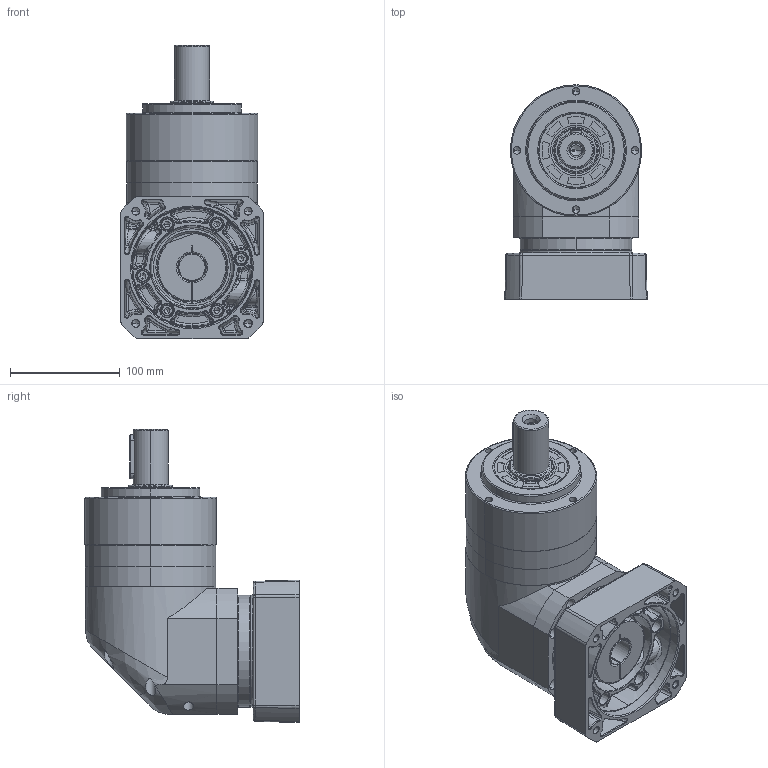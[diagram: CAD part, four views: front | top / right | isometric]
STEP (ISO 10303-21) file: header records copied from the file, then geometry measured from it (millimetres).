
FILE_DESCRIPTION (( 'STEP AP214' ), '1' );
FILE_NAME ('EVL120-L1-S2-P1 24-110-145-M8-64.STEP', '2025-02-14T08:11:28', ( '微软用户' ), ( '微软中国' ), 'SwSTEP 2.0', 'SolidWorks 2021', '' );
FILE_SCHEMA (( 'AUTOMOTIVE_DESIGN' ));
Length unit declared in the file: millimetre
Products named in the file (13): 一级直角箱体EVT110D-加螺栓; 输入轴PAR115D-22; 踡隅蹟隊M16x12; 输入端壳体PAR115D; 怀堤傷褲极VRT110D; 输出内齿圈壳体VRL120D; M6-14樓粟菜; す瑩10X40; 输入锁紧环26X63.5X16-加螺栓; 嘎殤蚐猾 40-68-8; 镂空输入法兰PAB115D-110X44.5XM8; 怀堤俴陎殤PAB115D_1; EVL120-L1-S2-P1 24-110-145-M8-64
Assembly tree (17 placements, depth 2):
  EVL120-L1-S2-P1 24-110-145-M8-64
    怀堤傷褲极VRT110D
    一级直角箱体EVT110D-加螺栓
    输入端壳体PAR115D
    镂空输入法兰PAB115D-110X44.5XM8
    输入轴PAR115D-22
    输入锁紧环26X63.5X16-加螺栓
    踡隅蹟隊M16x12
    M6-14樓粟菜  x6
    怀堤俴陎殤PAB115D_1
    嘎殤蚐猾 40-68-8
    す瑩10X40
    输出内齿圈壳体VRL120D
Bounding box: 130 x 195.5 x 267.5 mm (x, y, z)
Volume: 1628058 mm3; surface area: 349989.1 mm2
Topology: 11 solids, 38 shells, 1388 faces, 3291 edges, 1967 vertices
Faces by surface type: bspline 436, plane 363, cylinder 355, cone 203, torus 31
Entity records: 76900 total; most frequent: CARTESIAN_POINT 37083, ORIENTED_EDGE 5739, DIRECTION 4484, EDGE_CURVE 2901, AXIS2_PLACEMENT_3D 1823, VERTEX_POINT 1772, EDGE_LOOP 1423, UNCERTAINTY_MEASURE_WITH_UNIT 1307
